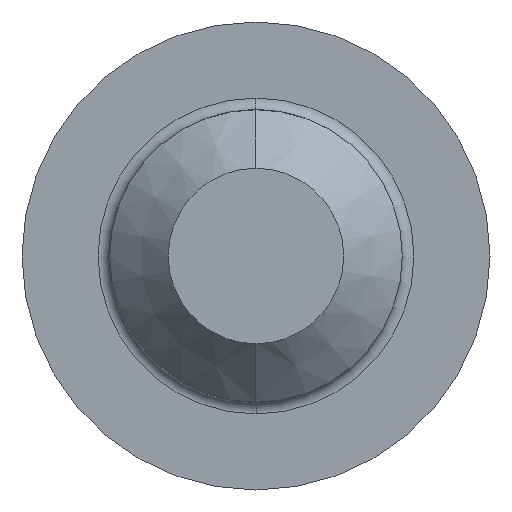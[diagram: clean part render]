
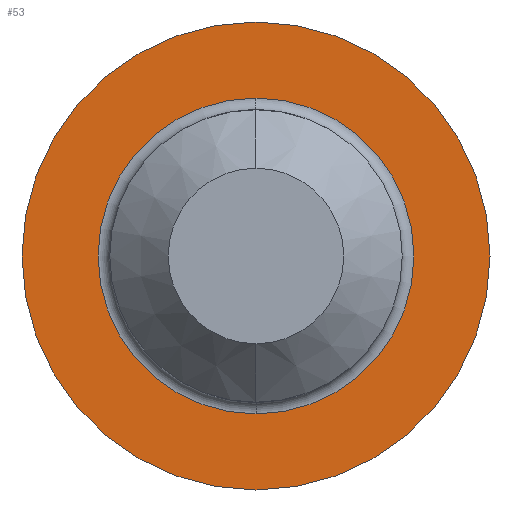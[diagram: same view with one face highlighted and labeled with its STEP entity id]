
A CAD part, left-side view. The second image highlights one B-rep face of the part: STEP entity #53.
In plain terms, the highlighted planar face has unit normal (-1, 0, 0).
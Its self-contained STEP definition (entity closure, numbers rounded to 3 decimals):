
#37 = ORIENTED_EDGE ( 'NONE', *, *, #104, .T. ) ;
#46 = VERTEX_POINT ( 'NONE', #294 ) ;
#53 = ADVANCED_FACE ( 'NONE', ( #361, #291 ), #309, .F. ) ;
#54 = ORIENTED_EDGE ( 'NONE', *, *, #119, .T. ) ;
#55 = ORIENTED_EDGE ( 'NONE', *, *, #189, .T. ) ;
#58 = ORIENTED_EDGE ( 'NONE', *, *, #127, .T. ) ;
#70 = VERTEX_POINT ( 'NONE', #313 ) ;
#76 = EDGE_LOOP ( 'NONE', ( #37, #55 ) ) ;
#83 = VERTEX_POINT ( 'NONE', #349 ) ;
#104 = EDGE_CURVE ( 'NONE', #70, #46, #215, .T. ) ;
#119 = EDGE_CURVE ( 'NONE', #124, #83, #250, .T. ) ;
#124 = VERTEX_POINT ( 'NONE', #248 ) ;
#127 = EDGE_CURVE ( 'NONE', #83, #124, #284, .T. ) ;
#173 = EDGE_LOOP ( 'NONE', ( #54, #58 ) ) ;
#189 = EDGE_CURVE ( 'NONE', #46, #70, #502, .T. ) ;
#204 = CARTESIAN_POINT ( 'NONE',  ( 0., 0., 0. ) ) ;
#212 = DIRECTION ( 'NONE',  ( 0., 0., -1. ) ) ;
#213 = DIRECTION ( 'NONE',  ( 1., 0., 0. ) ) ;
#214 = CARTESIAN_POINT ( 'NONE',  ( 0., 0., 0. ) ) ;
#215 = CIRCLE ( 'NONE', #217, 2.7 ) ;
#217 = AXIS2_PLACEMENT_3D ( 'NONE', #214, #213, #212 ) ;
#245 = DIRECTION ( 'NONE',  ( 0., 0., 1. ) ) ;
#246 = DIRECTION ( 'NONE',  ( -1., 0., 0. ) ) ;
#247 = AXIS2_PLACEMENT_3D ( 'NONE', #204, #246, #245 ) ;
#248 = CARTESIAN_POINT ( 'NONE',  ( 0., 0., 4. ) ) ;
#250 = CIRCLE ( 'NONE', #247, 4. ) ;
#280 = DIRECTION ( 'NONE',  ( 0., 0., 1. ) ) ;
#281 = DIRECTION ( 'NONE',  ( -1., 0., 0. ) ) ;
#282 = CARTESIAN_POINT ( 'NONE',  ( 0., 0., 0. ) ) ;
#283 = AXIS2_PLACEMENT_3D ( 'NONE', #282, #281, #280 ) ;
#284 = CIRCLE ( 'NONE', #283, 4. ) ;
#288 = DIRECTION ( 'NONE',  ( 0., 0., -1. ) ) ;
#291 = FACE_OUTER_BOUND ( 'NONE', #173, .T. ) ;
#294 = CARTESIAN_POINT ( 'NONE',  ( 0., 0., 2.7 ) ) ;
#307 = CARTESIAN_POINT ( 'NONE',  ( 0., 4., 0. ) ) ;
#309 = PLANE ( 'NONE',  #341 ) ;
#313 = CARTESIAN_POINT ( 'NONE',  ( 0., 0., -2.7 ) ) ;
#341 = AXIS2_PLACEMENT_3D ( 'NONE', #307, #360, #288 ) ;
#349 = CARTESIAN_POINT ( 'NONE',  ( 0., 0., -4. ) ) ;
#360 = DIRECTION ( 'NONE',  ( 1., 0., 0. ) ) ;
#361 = FACE_BOUND ( 'NONE', #76, .T. ) ;
#498 = DIRECTION ( 'NONE',  ( 0., 0., -1. ) ) ;
#499 = DIRECTION ( 'NONE',  ( 1., 0., 0. ) ) ;
#500 = CARTESIAN_POINT ( 'NONE',  ( 0., 0., 0. ) ) ;
#502 = CIRCLE ( 'NONE', #524, 2.7 ) ;
#524 = AXIS2_PLACEMENT_3D ( 'NONE', #500, #499, #498 ) ;
